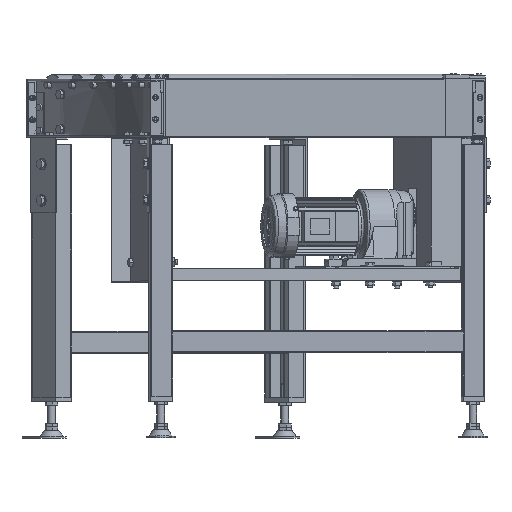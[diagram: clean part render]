
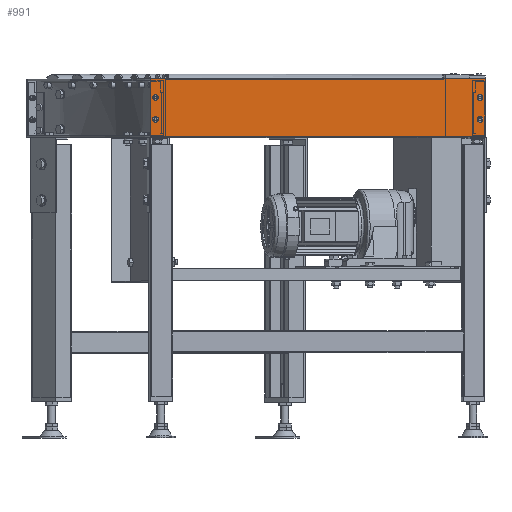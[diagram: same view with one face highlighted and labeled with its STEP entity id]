
A CAD part, top view. The second image highlights one B-rep face of the part: STEP entity #991.
In plain terms, the highlighted planar face has unit normal (0, 0, 1).
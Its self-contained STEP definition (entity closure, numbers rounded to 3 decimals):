
#991=ADVANCED_FACE('',(#5258,#5259,#5260,#5261,#5262),#5257,.F.);
#5257=PLANE('',#31040);
#5258=FACE_OUTER_BOUND('',#31041,.T.);
#5259=FACE_BOUND('',#31042,.T.);
#5260=FACE_BOUND('',#31043,.T.);
#5261=FACE_BOUND('',#31044,.T.);
#5262=FACE_BOUND('',#31045,.T.);
#31037=CARTESIAN_POINT('',(1570.,-140.,1.2));
#31038=DIRECTION('',(0.,0.,-1.));
#31039=DIRECTION('',(-1.,0.,0.));
#31040=AXIS2_PLACEMENT_3D('',#31037,#31038,#31039);
#31041=EDGE_LOOP('',(#45329,#45330,#45331,#45332));
#31042=EDGE_LOOP('',(#45333,#45334));
#31043=EDGE_LOOP('',(#45335,#45336));
#31044=EDGE_LOOP('',(#45337,#45338));
#31045=EDGE_LOOP('',(#45339,#45340));
#45329=ORIENTED_EDGE('',*,*,#58385,.F.);
#45330=ORIENTED_EDGE('',*,*,#58386,.F.);
#45331=ORIENTED_EDGE('',*,*,#58387,.F.);
#45332=ORIENTED_EDGE('',*,*,#58388,.F.);
#45333=ORIENTED_EDGE('',*,*,#58370,.T.);
#45334=ORIENTED_EDGE('',*,*,#58371,.T.);
#45335=ORIENTED_EDGE('',*,*,#58357,.T.);
#45336=ORIENTED_EDGE('',*,*,#58358,.T.);
#45337=ORIENTED_EDGE('',*,*,#58361,.T.);
#45338=ORIENTED_EDGE('',*,*,#58362,.T.);
#45339=ORIENTED_EDGE('',*,*,#58365,.T.);
#45340=ORIENTED_EDGE('',*,*,#58366,.T.);
#58357=EDGE_CURVE('',#68389,#68382,#68390,.T.);
#58358=EDGE_CURVE('',#68382,#68389,#68396,.T.);
#58361=EDGE_CURVE('',#68416,#68409,#68417,.T.);
#58362=EDGE_CURVE('',#68409,#68416,#68423,.T.);
#58365=EDGE_CURVE('',#68444,#68437,#68445,.T.);
#58366=EDGE_CURVE('',#68437,#68444,#68451,.T.);
#58370=EDGE_CURVE('',#68478,#68471,#68479,.T.);
#58371=EDGE_CURVE('',#68471,#68478,#68485,.T.);
#58385=EDGE_CURVE('',#68577,#68578,#68579,.T.);
#58386=EDGE_CURVE('',#68585,#68577,#68586,.T.);
#58387=EDGE_CURVE('',#68592,#68585,#68593,.T.);
#58388=EDGE_CURVE('',#68578,#68592,#68599,.T.);
#68382=VERTEX_POINT('',#114108);
#68389=VERTEX_POINT('',#114111);
#68390=CIRCLE('',#114115,3.);
#68396=CIRCLE('',#114119,3.);
#68409=VERTEX_POINT('',#114125);
#68416=VERTEX_POINT('',#114128);
#68417=CIRCLE('',#114132,3.);
#68423=CIRCLE('',#114136,3.);
#68437=VERTEX_POINT('',#114143);
#68444=VERTEX_POINT('',#114146);
#68445=CIRCLE('',#114150,3.);
#68451=CIRCLE('',#114154,3.);
#68471=VERTEX_POINT('',#114165);
#68478=VERTEX_POINT('',#114168);
#68479=CIRCLE('',#114172,3.);
#68485=CIRCLE('',#114176,3.);
#68577=VERTEX_POINT('',#114225);
#68578=VERTEX_POINT('',#114226);
#68579=LINE('',#114227,#114228);
#68585=VERTEX_POINT('',#114230);
#68586=LINE('',#114231,#114232);
#68592=VERTEX_POINT('',#114234);
#68593=LINE('',#114235,#114236);
#68599=LINE('',#114238,#114239);
#114108=CARTESIAN_POINT('',(1552.7,-48.5,1.2));
#114111=CARTESIAN_POINT('',(1546.7,-48.5,1.2));
#114112=CARTESIAN_POINT('',(1549.7,-48.5,1.2));
#114113=DIRECTION('',(0.,0.,-1.));
#114114=DIRECTION('',(-1.,0.,0.));
#114115=AXIS2_PLACEMENT_3D('',#114112,#114113,#114114);
#114116=CARTESIAN_POINT('',(1549.7,-48.5,1.2));
#114117=DIRECTION('',(0.,0.,-1.));
#114118=DIRECTION('',(-1.,0.,0.));
#114119=AXIS2_PLACEMENT_3D('',#114116,#114117,#114118);
#114125=CARTESIAN_POINT('',(1552.7,-93.5,1.2));
#114128=CARTESIAN_POINT('',(1546.7,-93.5,1.2));
#114129=CARTESIAN_POINT('',(1549.7,-93.5,1.2));
#114130=DIRECTION('',(0.,0.,-1.));
#114131=DIRECTION('',(-1.,0.,0.));
#114132=AXIS2_PLACEMENT_3D('',#114129,#114130,#114131);
#114133=CARTESIAN_POINT('',(1549.7,-93.5,1.2));
#114134=DIRECTION('',(0.,0.,-1.));
#114135=DIRECTION('',(-1.,0.,0.));
#114136=AXIS2_PLACEMENT_3D('',#114133,#114134,#114135);
#114143=CARTESIAN_POINT('',(883.306,-48.5,1.2));
#114146=CARTESIAN_POINT('',(877.306,-48.5,1.2));
#114147=CARTESIAN_POINT('',(880.306,-48.5,1.2));
#114148=DIRECTION('',(0.,0.,-1.));
#114149=DIRECTION('',(-1.,0.,0.));
#114150=AXIS2_PLACEMENT_3D('',#114147,#114148,#114149);
#114151=CARTESIAN_POINT('',(880.306,-48.5,1.2));
#114152=DIRECTION('',(0.,0.,-1.));
#114153=DIRECTION('',(-1.,0.,0.));
#114154=AXIS2_PLACEMENT_3D('',#114151,#114152,#114153);
#114165=CARTESIAN_POINT('',(883.306,-93.5,1.2));
#114168=CARTESIAN_POINT('',(877.306,-93.5,1.2));
#114169=CARTESIAN_POINT('',(880.306,-93.5,1.2));
#114170=DIRECTION('',(0.,0.,-1.));
#114171=DIRECTION('',(-1.,0.,0.));
#114172=AXIS2_PLACEMENT_3D('',#114169,#114170,#114171);
#114173=CARTESIAN_POINT('',(880.306,-93.5,1.2));
#114174=DIRECTION('',(0.,0.,-1.));
#114175=DIRECTION('',(-1.,0.,0.));
#114176=AXIS2_PLACEMENT_3D('',#114173,#114174,#114175);
#114225=CARTESIAN_POINT('',(1560.,-130.,1.2));
#114226=CARTESIAN_POINT('',(870.,-130.,1.2));
#114227=CARTESIAN_POINT('',(1560.,-130.,1.2));
#114228=VECTOR('',#114229,690.);
#114229=DIRECTION('',(-1.,0.,0.));
#114230=CARTESIAN_POINT('',(1560.,-10.,1.2));
#114231=CARTESIAN_POINT('',(1560.,-10.,1.2));
#114232=VECTOR('',#114233,120.);
#114233=DIRECTION('',(0.,-1.,0.));
#114234=CARTESIAN_POINT('',(870.,-10.,1.2));
#114235=CARTESIAN_POINT('',(870.,-10.,1.2));
#114236=VECTOR('',#114237,690.);
#114237=DIRECTION('',(1.,0.,0.));
#114238=CARTESIAN_POINT('',(870.,-130.,1.2));
#114239=VECTOR('',#114240,120.);
#114240=DIRECTION('',(0.,1.,0.));
